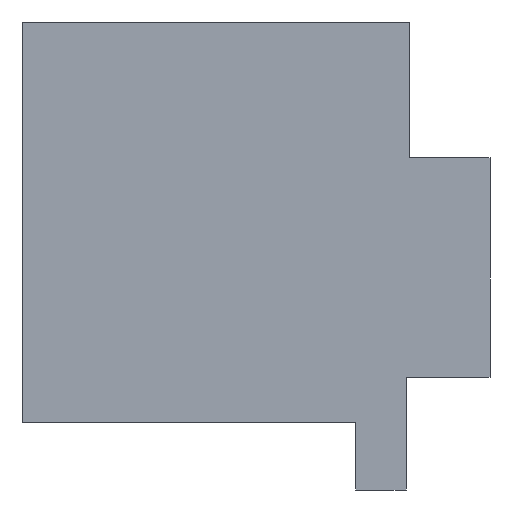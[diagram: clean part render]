
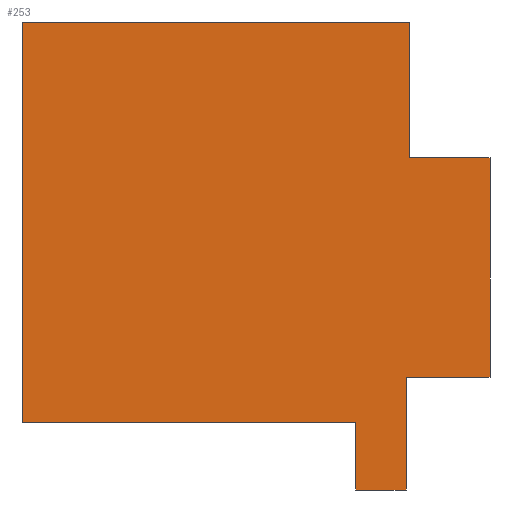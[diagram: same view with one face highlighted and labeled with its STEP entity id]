
A CAD part, left-side view. The second image highlights one B-rep face of the part: STEP entity #253.
In plain terms, the highlighted planar face has unit normal (-1, 0, 0).
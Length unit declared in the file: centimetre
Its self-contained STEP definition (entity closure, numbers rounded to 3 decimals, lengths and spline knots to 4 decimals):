
#3 = LINE ( 'NONE', #749, #535 ) ;
#28 = VECTOR ( 'NONE', #61, 100. ) ;
#42 = LINE ( 'NONE', #861, #441 ) ;
#57 = CARTESIAN_POINT ( 'NONE',  ( 0., 172.93, 709.9071 ) ) ;
#61 = DIRECTION ( 'NONE',  ( 0., -1., 0. ) ) ;
#63 = DIRECTION ( 'NONE',  ( 0., 0., -1. ) ) ;
#87 = CARTESIAN_POINT ( 'NONE',  ( 0., 287.3035, 145.2829 ) ) ;
#112 = CARTESIAN_POINT ( 'NONE',  ( 0., 179.2054, 0. ) ) ;
#116 = DIRECTION ( 'NONE',  ( 0., -1., 0. ) ) ;
#128 = EDGE_CURVE ( 'NONE', #826, #586, #188, .T. ) ;
#148 = VERTEX_POINT ( 'NONE', #57 ) ;
#156 = DIRECTION ( 'NONE',  ( 0., -1., 0. ) ) ;
#161 = LINE ( 'NONE', #423, #712 ) ;
#178 = AXIS2_PLACEMENT_3D ( 'NONE', #789, #378, #718 ) ;
#179 = VECTOR ( 'NONE', #813, 100. ) ;
#187 = CARTESIAN_POINT ( 'NONE',  ( 0., 179.2054, 0. ) ) ;
#188 = LINE ( 'NONE', #389, #591 ) ;
#192 = CARTESIAN_POINT ( 'NONE',  ( 0., 172.93, 709.9071 ) ) ;
#202 = ORIENTED_EDGE ( 'NONE', *, *, #549, .F. ) ;
#208 = CARTESIAN_POINT ( 'NONE',  ( 0., 0., 241.0431 ) ) ;
#236 = ORIENTED_EDGE ( 'NONE', *, *, #408, .T. ) ;
#240 = VERTEX_POINT ( 'NONE', #386 ) ;
#248 = VERTEX_POINT ( 'NONE', #842 ) ;
#253 = ADVANCED_FACE ( 'NONE', ( #851 ), #777, .F. ) ;
#256 = CARTESIAN_POINT ( 'NONE',  ( 0., 179.2054, 241.0431 ) ) ;
#264 = VECTOR ( 'NONE', #557, 100. ) ;
#268 = CARTESIAN_POINT ( 'NONE',  ( 0., 1000., 145.2829 ) ) ;
#270 = EDGE_CURVE ( 'NONE', #586, #476, #42, .T. ) ;
#277 = LINE ( 'NONE', #611, #264 ) ;
#287 = EDGE_CURVE ( 'NONE', #683, #449, #583, .T. ) ;
#295 = VERTEX_POINT ( 'NONE', #655 ) ;
#296 = VERTEX_POINT ( 'NONE', #112 ) ;
#321 = EDGE_CURVE ( 'NONE', #295, #449, #3, .T. ) ;
#331 = DIRECTION ( 'NONE',  ( 0., 0., -1. ) ) ;
#341 = LINE ( 'NONE', #545, #179 ) ;
#371 = ORIENTED_EDGE ( 'NONE', *, *, #128, .F. ) ;
#378 = DIRECTION ( 'NONE',  ( 1., 0., 0. ) ) ;
#383 = LINE ( 'NONE', #791, #28 ) ;
#386 = CARTESIAN_POINT ( 'NONE',  ( 0., 1000., 1000. ) ) ;
#389 = CARTESIAN_POINT ( 'NONE',  ( 0., 287.3035, 145.2829 ) ) ;
#393 = DIRECTION ( 'NONE',  ( 0., 0., 1. ) ) ;
#408 = EDGE_CURVE ( 'NONE', #826, #296, #277, .T. ) ;
#423 = CARTESIAN_POINT ( 'NONE',  ( 0., 1000., 1000. ) ) ;
#441 = VECTOR ( 'NONE', #509, 100. ) ;
#449 = VERTEX_POINT ( 'NONE', #208 ) ;
#476 = VERTEX_POINT ( 'NONE', #268 ) ;
#500 = ORIENTED_EDGE ( 'NONE', *, *, #717, .T. ) ;
#509 = DIRECTION ( 'NONE',  ( 0., 1., 0. ) ) ;
#531 = EDGE_LOOP ( 'NONE', ( #500, #786, #843, #587, #560, #202, #746, #572, #371, #236 ) ) ;
#535 = VECTOR ( 'NONE', #63, 100. ) ;
#537 = EDGE_CURVE ( 'NONE', #240, #476, #341, .T. ) ;
#545 = CARTESIAN_POINT ( 'NONE',  ( 0., 1000., 1000. ) ) ;
#549 = EDGE_CURVE ( 'NONE', #240, #248, #161, .T. ) ;
#557 = DIRECTION ( 'NONE',  ( 0., -1., 0. ) ) ;
#560 = ORIENTED_EDGE ( 'NONE', *, *, #654, .F. ) ;
#572 = ORIENTED_EDGE ( 'NONE', *, *, #270, .F. ) ;
#583 = LINE ( 'NONE', #845, #783 ) ;
#586 = VERTEX_POINT ( 'NONE', #87 ) ;
#587 = ORIENTED_EDGE ( 'NONE', *, *, #704, .F. ) ;
#591 = VECTOR ( 'NONE', #844, 100. ) ;
#611 = CARTESIAN_POINT ( 'NONE',  ( 0., 1000., 0. ) ) ;
#654 = EDGE_CURVE ( 'NONE', #248, #148, #672, .T. ) ;
#655 = CARTESIAN_POINT ( 'NONE',  ( 0., 0., 709.9071 ) ) ;
#659 = VECTOR ( 'NONE', #393, 100. ) ;
#672 = LINE ( 'NONE', #192, #849 ) ;
#683 = VERTEX_POINT ( 'NONE', #256 ) ;
#704 = EDGE_CURVE ( 'NONE', #148, #295, #383, .T. ) ;
#712 = VECTOR ( 'NONE', #156, 100. ) ;
#717 = EDGE_CURVE ( 'NONE', #296, #683, #806, .T. ) ;
#718 = DIRECTION ( 'NONE',  ( 0., 0., -1. ) ) ;
#725 = CARTESIAN_POINT ( 'NONE',  ( 0., 287.3035, 0. ) ) ;
#746 = ORIENTED_EDGE ( 'NONE', *, *, #537, .T. ) ;
#749 = CARTESIAN_POINT ( 'NONE',  ( 0., 0., 1000. ) ) ;
#777 = PLANE ( 'NONE',  #178 ) ;
#783 = VECTOR ( 'NONE', #116, 100. ) ;
#786 = ORIENTED_EDGE ( 'NONE', *, *, #287, .T. ) ;
#789 = CARTESIAN_POINT ( 'NONE',  ( 0., 1000., 1000. ) ) ;
#791 = CARTESIAN_POINT ( 'NONE',  ( 0., 0., 709.9071 ) ) ;
#806 = LINE ( 'NONE', #187, #659 ) ;
#813 = DIRECTION ( 'NONE',  ( 0., 0., -1. ) ) ;
#826 = VERTEX_POINT ( 'NONE', #725 ) ;
#842 = CARTESIAN_POINT ( 'NONE',  ( 0., 172.93, 1000. ) ) ;
#843 = ORIENTED_EDGE ( 'NONE', *, *, #321, .F. ) ;
#844 = DIRECTION ( 'NONE',  ( 0., 0., 1. ) ) ;
#845 = CARTESIAN_POINT ( 'NONE',  ( 0., 0., 241.0431 ) ) ;
#849 = VECTOR ( 'NONE', #331, 100. ) ;
#851 = FACE_OUTER_BOUND ( 'NONE', #531, .T. ) ;
#861 = CARTESIAN_POINT ( 'NONE',  ( 0., 287.3035, 145.2829 ) ) ;
